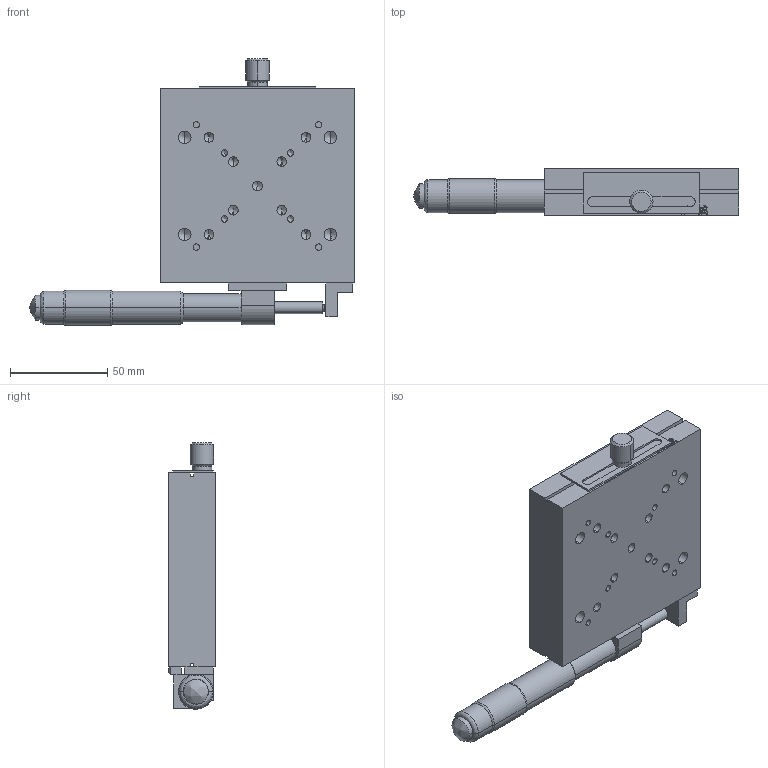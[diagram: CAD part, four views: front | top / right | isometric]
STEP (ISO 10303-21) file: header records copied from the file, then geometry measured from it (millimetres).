
FILE_DESCRIPTION (( 'STEP AP214' ), '1' );
FILE_NAME ('PT110-50-100CH.STEP', '2022-09-03T02:39:11', ( '' ), ( '' ), 'SwSTEP 2.0', 'SolidWorks 2017', '' );
FILE_SCHEMA (( 'AUTOMOTIVE_DESIGN' ));
Length unit declared in the file: millimetre
Products named in the file (6): PT110-50-100CH(1); PT110-50-100H平移台; PT110-50-100CH(标）; SP110-50-100CH狟怢醱; SP110-50-100CH奻怢醱; PT110-50-100CH
Assembly tree (5 placements, depth 3):
  PT110-50-100CH
    PT110-50-100CH(标）
      SP110-50-100CH狟怢醱
      SP110-50-100CH奻怢醱
    PT110-50-100CH(1)
      PT110-50-100H平移台
Bounding box: 167.5 x 24 x 137.25 mm (x, y, z)
Volume: 265427.7 mm3; surface area: 50131.1 mm2
Topology: 4 solids, 4 shells, 617 faces, 1608 edges, 1018 vertices
Faces by surface type: plane 285, bspline 161, cylinder 97, cone 74
Entity records: 30824 total; most frequent: CARTESIAN_POINT 10706, ORIENTED_EDGE 3072, DIRECTION 2412, EDGE_CURVE 1536, VERTEX_POINT 1018, VECTOR 980, LINE 980, AXIS2_PLACEMENT_3D 716
